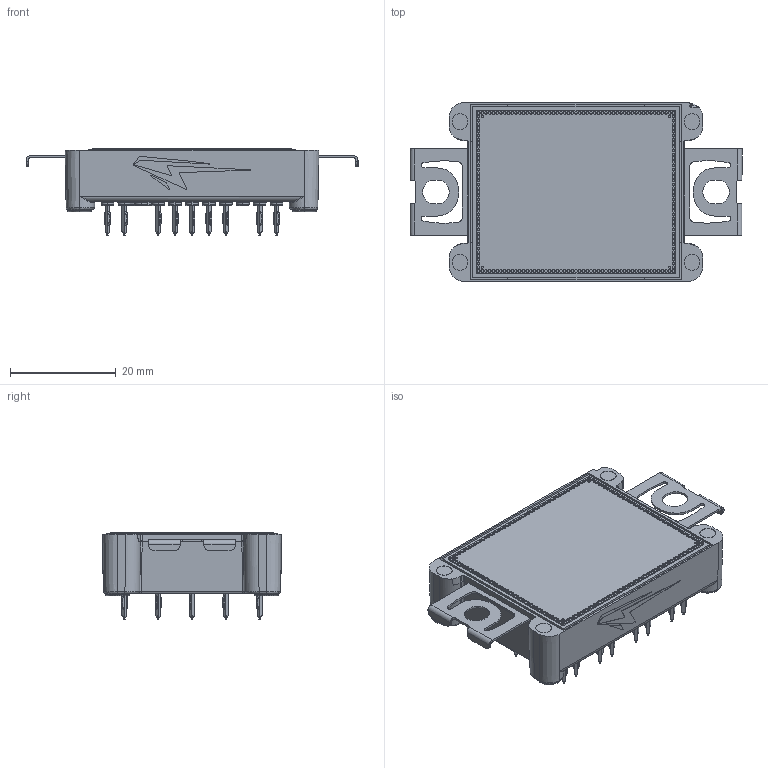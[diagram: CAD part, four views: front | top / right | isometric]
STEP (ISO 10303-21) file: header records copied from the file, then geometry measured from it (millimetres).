
FILE_DESCRIPTION (( 'STEP AP214' ), '1' );
FILE_NAME ('Wolfspeed_CCB0xxM12FM3_Power_Module_External.STEP', '2022-01-17T21:45:15', ( '' ), ( '' ), 'SwSTEP 2.0', 'SolidWorks 2018', '' );
FILE_SCHEMA (( 'AUTOMOTIVE_DESIGN' ));
Length unit declared in the file: millimetre
Products named in the file (1): Wolfspeed_CCB0xxM12FM3_Power_Module_External
Bounding box: 62.8 x 33.8 x 16.4 mm (x, y, z)
Volume: 14896.2 mm3; surface area: 7585.8 mm2
Topology: 1 solids, 1 shells, 3127 faces, 7141 edges, 4475 vertices
Faces by surface type: cylinder 1051, plane 876, cone 574, torus 391, bspline 233, sphere 2
Entity records: 129524 total; most frequent: CARTESIAN_POINT 25664, DIRECTION 14775, ORIENTED_EDGE 14272, EDGE_CURVE 7136, AXIS2_PLACEMENT_3D 6009, VERTEX_POINT 4475, EDGE_LOOP 3599, UNCERTAINTY_MEASURE_WITH_UNIT 3130
